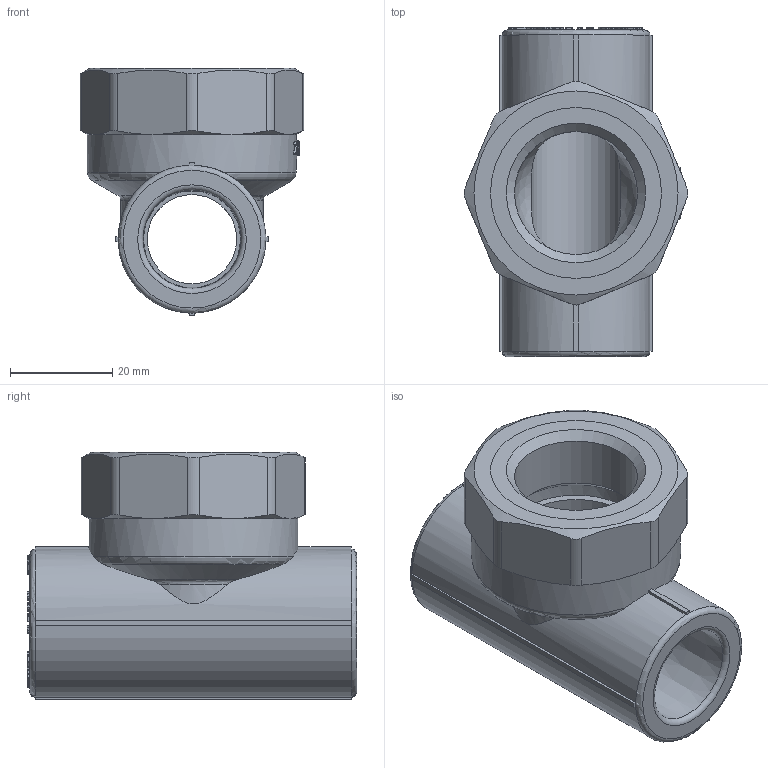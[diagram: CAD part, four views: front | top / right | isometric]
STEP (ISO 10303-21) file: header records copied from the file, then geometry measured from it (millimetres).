
FILE_DESCRIPTION(('STEP AP203'), '1');
FILE_NAME('ÂÐ.752241.035 - VTp.732.0.02005', '', ('UNSPECIFIED'), ('UNSPECIFIED'), 'C3D Converter', 'C3D Toolkit', '');
FILE_SCHEMA(('CONFIG_CONTROL_DESIGN'));
Length unit declared in the file: millimetre
Products named in the file (4): ВР.752241.035; ВР.302639.015.000; ВР.713661.002
Assembly tree (3 placements, depth 3):
  ВР.752241.035
    ВР.302639.015.000
      ВР.713661.002
      (unnamed)
Bounding box: 43.88 x 64.5 x 48.5 mm (x, y, z)
Volume: 42291.7 mm3; surface area: 23444.9 mm2
Topology: 3 solids, 3 shells, 886 faces, 2445 edges, 1621 vertices
Faces by surface type: extrusion 439, plane 365, cylinder 52, cone 15, torus 13, sphere 2
Full cylindrical faces by diameter (mm): 17.5 x1, 24.118 x1, 24.12 x1, 27 x1, 29.5 x8, 33.5 x10, 41 x1
Entity records: 32969 total; most frequent: CARTESIAN_POINT 12192, ORIENTED_EDGE 4804, DIRECTION 2912, EDGE_CURVE 2402, VECTOR 1652, VERTEX_POINT 1614, B_SPLINE_CURVE_WITH_KNOTS 1382, LINE 1213
